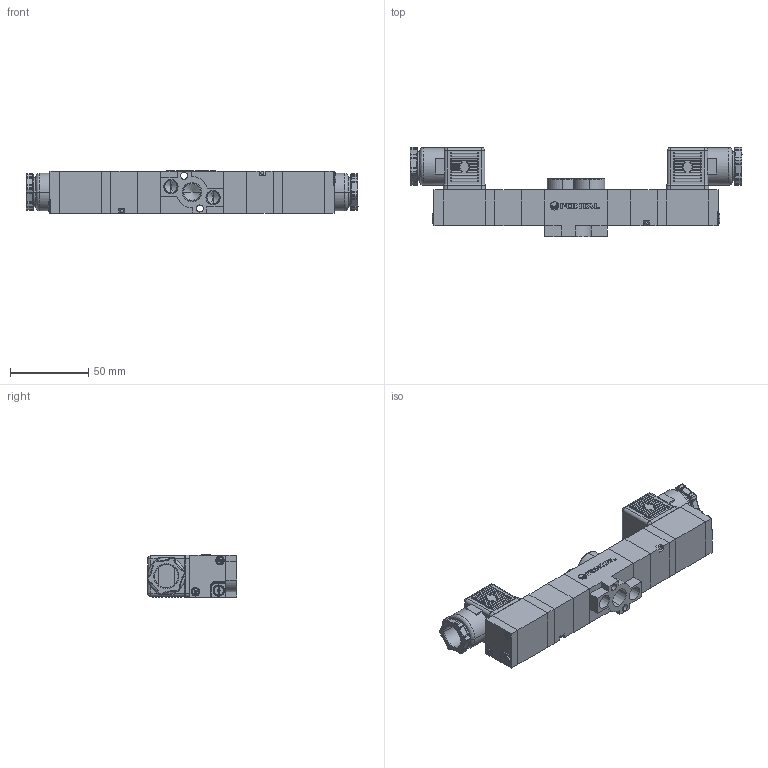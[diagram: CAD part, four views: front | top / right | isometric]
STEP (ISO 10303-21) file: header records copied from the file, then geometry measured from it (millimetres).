
FILE_DESCRIPTION (( 'STEP AP203' ), '1' );
FILE_NAME ('RCD(E¡BO)3406-02-#C##.STEP', '2016-02-04T06:06:56', ( 'Sam Lin' ), ( '' ), 'SwSTEP 2.0', 'SolidWorks 2013', '' );
FILE_SCHEMA (( 'CONFIG_CONTROL_DESIGN' ));
Length unit declared in the file: metre
Products named in the file (13): RC06-5; PC06-MARK; PCS2406-3-C; RC06-1; RC06-7=15; RC06-3; RC06-8=6; PCS2406-3-小圓珠; RCD(E、O)3406-02-#C##; PC6-M4; PCS2406-9; PC6-M3; RC06-4
Assembly tree (24 placements, depth 2):
  RCD(E、O)3406-02-#C##
    PC06-MARK
    RC06-1
    RC06-3  x2
    PCS2406-3-小圓珠  x2
    PC6-M4  x2
    PCS2406-9  x2
    PC6-M3  x4
    RC06-4  x2
    RC06-5  x2
    PCS2406-3-C  x2
    RC06-7=15  x2
    RC06-8=6  x2
Bounding box: 212.7 x 57.14 x 27.15 mm (x, y, z)
Volume: 162981 mm3; surface area: 53452.6 mm2
Topology: 30 solids, 30 shells, 1174 faces, 3022 edges, 1706 vertices
Faces by surface type: plane 409, bspline 347, cylinder 340, cone 78
Entity records: 27204 total; most frequent: CARTESIAN_POINT 11320, ORIENTED_EDGE 3070, DIRECTION 2755, EDGE_CURVE 1535, AXIS2_PLACEMENT_3D 995, VERTEX_POINT 968, VECTOR 765, LINE 765
